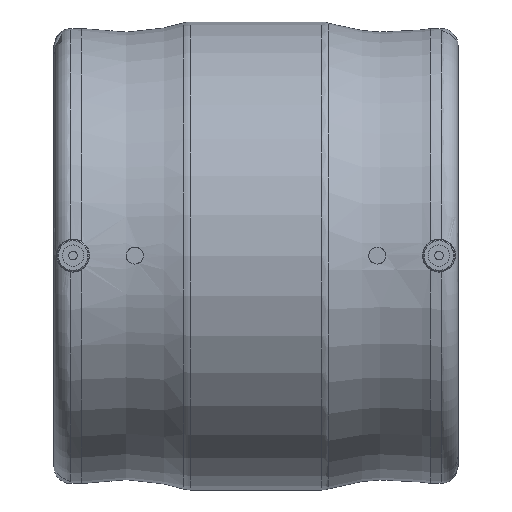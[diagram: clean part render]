
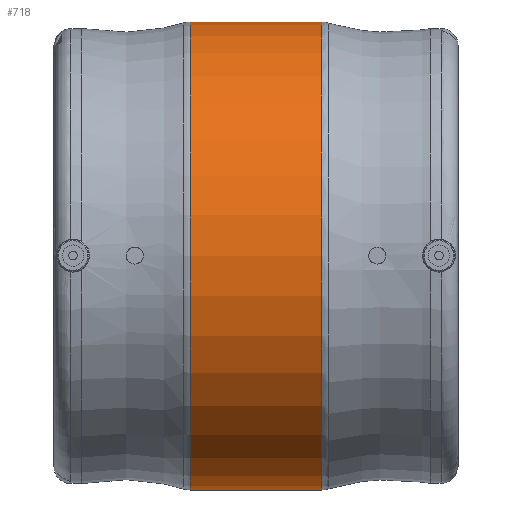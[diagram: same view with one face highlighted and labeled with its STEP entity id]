
A CAD part, top view. The second image highlights one B-rep face of the part: STEP entity #718.
In plain terms, the highlighted cylindrical face has radius 110 mm (diameter 220 mm), a full revolution.
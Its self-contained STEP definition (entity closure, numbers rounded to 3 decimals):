
#47=CYLINDRICAL_SURFACE('',#806,110.);
#232=ORIENTED_EDGE('',*,*,#368,.T.);
#233=ORIENTED_EDGE('',*,*,#369,.T.);
#368=EDGE_CURVE('',#442,#442,#490,.F.);
#369=EDGE_CURVE('',#443,#443,#491,.T.);
#442=VERTEX_POINT('',#1280);
#443=VERTEX_POINT('',#1282);
#490=CIRCLE('',#807,110.);
#491=CIRCLE('',#808,110.);
#545=EDGE_LOOP('',(#232));
#546=EDGE_LOOP('',(#233));
#625=FACE_BOUND('',#545,.T.);
#626=FACE_BOUND('',#546,.T.);
#718=ADVANCED_FACE('',(#625,#626),#47,.T.);
#806=AXIS2_PLACEMENT_3D('',#1278,#976,#977);
#807=AXIS2_PLACEMENT_3D('',#1279,#978,#979);
#808=AXIS2_PLACEMENT_3D('',#1281,#980,#981);
#976=DIRECTION('',(-1.,0.,0.));
#977=DIRECTION('',(0.,0.,1.));
#978=DIRECTION('',(1.,0.,0.));
#979=DIRECTION('',(0.,0.,-1.));
#980=DIRECTION('',(1.,0.,0.));
#981=DIRECTION('',(0.,0.,-1.));
#1278=CARTESIAN_POINT('',(-60.,0.,0.));
#1279=CARTESIAN_POINT('',(30.97,0.,0.));
#1280=CARTESIAN_POINT('',(30.97,0.,-110.));
#1281=CARTESIAN_POINT('',(-30.97,0.,0.));
#1282=CARTESIAN_POINT('',(-30.97,0.,-110.));
